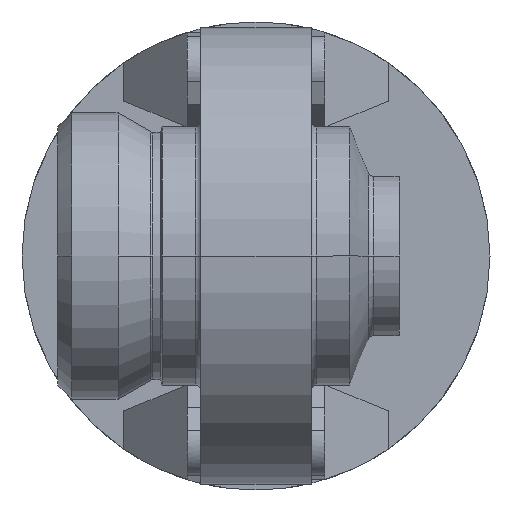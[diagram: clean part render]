
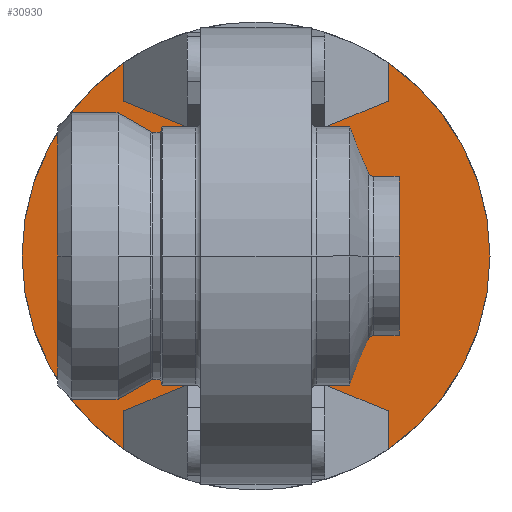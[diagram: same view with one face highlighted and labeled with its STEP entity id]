
A CAD part, front view. The second image highlights one B-rep face of the part: STEP entity #30930.
In plain terms, the highlighted planar face has unit normal (0, -1, 0).
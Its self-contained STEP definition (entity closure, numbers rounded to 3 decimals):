
#17120=CARTESIAN_POINT('',(-129.082,114.21,32.));
#17130=VERTEX_POINT('',#17120);
#17160=CARTESIAN_POINT('',(-129.082,114.21,
0.));
#17170=DIRECTION('',(0.,0.,-1.));
#17180=VECTOR('',#17170,1.);
#17190=LINE('',#17160,#17180);
#17200=CARTESIAN_POINT('',(-129.082,114.21,
35.075));
#17210=VERTEX_POINT('',#17200);
#17220=EDGE_CURVE('',#17210,#17130,#17190,.T.);
#18220=CARTESIAN_POINT('',(-81.082,114.21,32.));
#18230=VERTEX_POINT('',#18220);
#18260=CARTESIAN_POINT('',(-105.082,114.21,
0.));
#18270=DIRECTION('',(0.,-1.,0.));
#18280=DIRECTION('',(0.,0.,1.));
#18290=AXIS2_PLACEMENT_3D('',#18260,#18270,#18280);
#18300=CIRCLE('',#18290,40.);
#18310=EDGE_CURVE('',#18230,#17130,#18300,.T.);
#23640=CARTESIAN_POINT('',(-81.082,114.21,-32.));
#23650=VERTEX_POINT('',#23640);
#23680=CARTESIAN_POINT('',(-81.082,114.21,
0.));
#23690=DIRECTION('',(0.,0.,1.));
#23700=VECTOR('',#23690,1.);
#23710=LINE('',#23680,#23700);
#23720=CARTESIAN_POINT('',(-81.082,114.21,
-35.075));
#23730=VERTEX_POINT('',#23720);
#23740=EDGE_CURVE('',#23730,#23650,#23710,.T.);
#24330=CARTESIAN_POINT('',(-129.082,114.21,-32.));
#24340=VERTEX_POINT('',#24330);
#24370=CARTESIAN_POINT('',(-105.082,114.21,
0.));
#24380=DIRECTION('',(0.,-1.,0.));
#24390=DIRECTION('',(0.,0.,-1.));
#24400=AXIS2_PLACEMENT_3D('',#24370,#24380,#24390);
#24410=CIRCLE('',#24400,40.);
#24420=EDGE_CURVE('',#24340,#23650,#24410,.T.);
#25900=CARTESIAN_POINT('',(-105.082,114.21,
0.));
#25910=DIRECTION('',(0.,-1.,0.));
#25920=DIRECTION('',(0.,0.,1.));
#25930=AXIS2_PLACEMENT_3D('',#25900,#25910,#25920);
#25940=CIRCLE('',#25930,42.5);
#25950=CARTESIAN_POINT('',(-129.082,114.21,
-35.075));
#25960=VERTEX_POINT('',#25950);
#25970=EDGE_CURVE('',#17210,#25960,#25940,.T.);
#30500=CARTESIAN_POINT('',(-105.082,114.21,
0.));
#30510=DIRECTION('',(0.,-1.,0.));
#30520=DIRECTION('',(0.,0.,1.));
#30530=AXIS2_PLACEMENT_3D('',#30500,#30510,#30520);
#30540=PLANE('',#30530);
#30550=ORIENTED_EDGE('',*,*,#23740,.F.);
#30560=ORIENTED_EDGE('',*,*,#24420,.T.);
#30570=CARTESIAN_POINT('',(-129.082,114.21,
0.));
#30580=DIRECTION('',(0.,0.,-1.));
#30590=VECTOR('',#30580,1.);
#30600=LINE('',#30570,#30590);
#30610=EDGE_CURVE('',#24340,#25960,#30600,.T.);
#30620=ORIENTED_EDGE('',*,*,#30610,.F.);
#30630=ORIENTED_EDGE('',*,*,#25970,.T.);
#30640=ORIENTED_EDGE('',*,*,#17220,.F.);
#30650=ORIENTED_EDGE('',*,*,#18310,.T.);
#30660=CARTESIAN_POINT('',(-81.082,114.21,
0.));
#30670=DIRECTION('',(0.,0.,1.));
#30680=VECTOR('',#30670,1.);
#30690=LINE('',#30660,#30680);
#30700=CARTESIAN_POINT('',(-81.082,114.21,
35.075));
#30710=VERTEX_POINT('',#30700);
#30720=EDGE_CURVE('',#18230,#30710,#30690,.T.);
#30730=ORIENTED_EDGE('',*,*,#30720,.F.);
#30740=EDGE_CURVE('',#23730,#30710,#25940,.T.);
#30750=ORIENTED_EDGE('',*,*,#30740,.T.);
#30760=EDGE_LOOP('',(#30750,#30730,#30650,#30640,#30630,#30620,#30560,
#30550));
#30770=FACE_OUTER_BOUND('',#30760,.T.);
#30780=CARTESIAN_POINT('',(-105.082,114.21,
0.));
#30790=DIRECTION('',(0.,-1.,0.));
#30800=DIRECTION('',(1.,0.,0.));
#30810=AXIS2_PLACEMENT_3D('',#30780,#30790,#30800);
#30820=CIRCLE('',#30810,10.);
#30830=CARTESIAN_POINT('',(-115.082,114.21,
0.));
#30840=VERTEX_POINT('',#30830);
#30850=CARTESIAN_POINT('',(-95.082,114.21,
0.));
#30860=VERTEX_POINT('',#30850);
#30870=EDGE_CURVE('',#30840,#30860,#30820,.T.);
#30880=ORIENTED_EDGE('',*,*,#30870,.F.);
#30890=EDGE_CURVE('',#30860,#30840,#30820,.T.);
#30900=ORIENTED_EDGE('',*,*,#30890,.F.);
#30910=EDGE_LOOP('',(#30900,#30880));
#30920=FACE_BOUND('',#30910,.T.);
#30930=ADVANCED_FACE('',(#30770,#30920),#30540,.T.);
